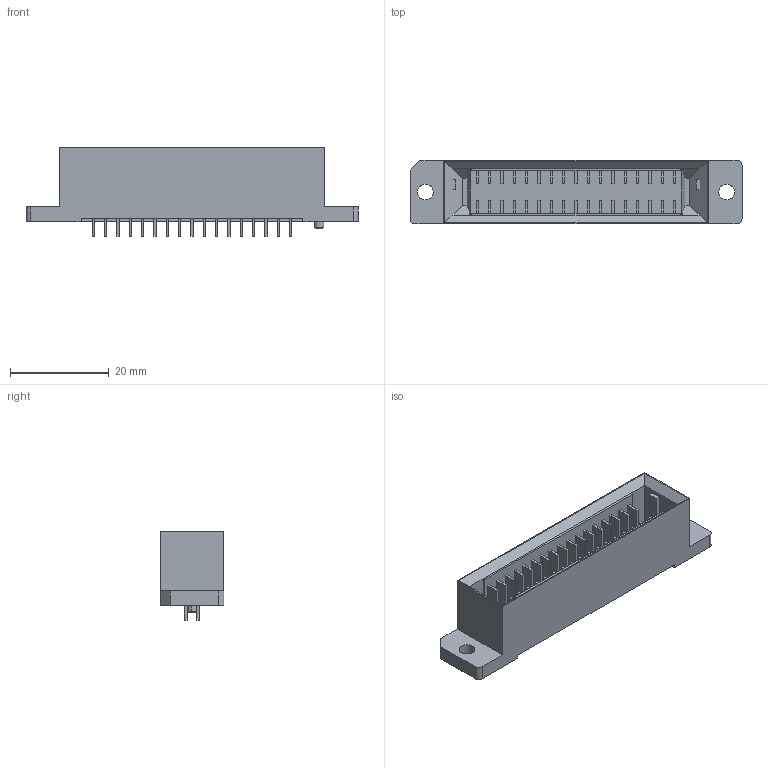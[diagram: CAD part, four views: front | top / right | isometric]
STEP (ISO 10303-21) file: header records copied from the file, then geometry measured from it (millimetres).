
FILE_DESCRIPTION(('CoCreate Modeling STEP Export'),'2;1');
FILE_NAME('P3A946_FA11-034.stp','2017-07-27T15:52:38',(''),(''),'CoCreate Modeling STEP processor for AP214 (Solid Model)','CoCreate Modeling 17.0B 09-Oct-2010 (C) Parametric Technology GmbH','');
FILE_SCHEMA(('AUTOMOTIVE_DESIGN { 1 0 10303 214 1 1 1 1 }'));
Length unit declared in the file: millimetre
Products named in the file (2): FA11-034
Assembly tree (1 placements, depth 2):
  FA11-034
    FA11-034
Bounding box: 67.3 x 12.9 x 18 mm (x, y, z)
Volume: 5568.2 mm3; surface area: 6890.4 mm2
Topology: 1 solids, 1 shells, 374 faces, 991 edges, 655 vertices
Faces by surface type: plane 363, cylinder 9, cone 2
Entity records: 11293 total; most frequent: CARTESIAN_POINT 2000, ORIENTED_EDGE 1982, DIRECTION 1730, EDGE_CURVE 991, VECTOR 960, LINE 960, VERTEX_POINT 655, EDGE_LOOP 414
